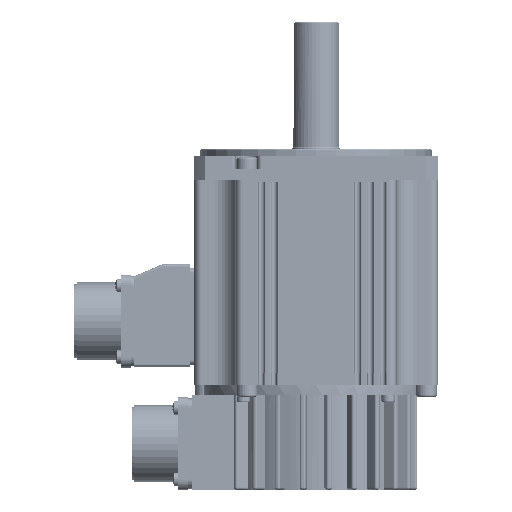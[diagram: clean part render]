
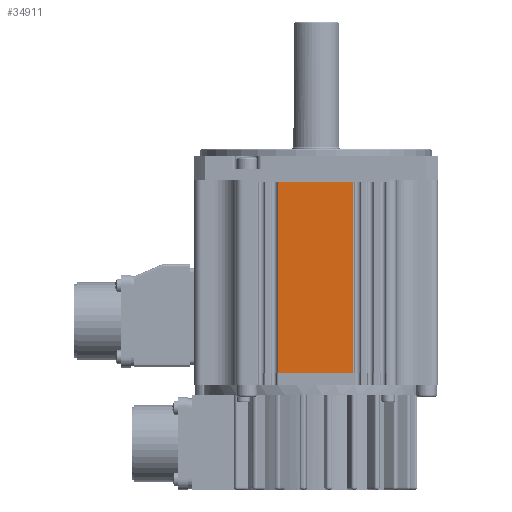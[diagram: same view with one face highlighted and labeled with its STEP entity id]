
A CAD part, left-side view. The second image highlights one B-rep face of the part: STEP entity #34911.
In plain terms, the highlighted planar face has unit normal (-1, 0, 0).
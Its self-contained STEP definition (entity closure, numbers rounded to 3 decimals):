
#31015=DIRECTION('',(0.,1.,0.));
#31016=VECTOR('',#31015,30.8);
#31017=CARTESIAN_POINT('',(-50.,-15.4,78.5));
#31018=LINE('',#31017,#31016);
#31709=DIRECTION('',(0.,0.,1.));
#31710=VECTOR('',#31709,78.5);
#31711=CARTESIAN_POINT('',(-50.,-15.4,0.));
#31712=LINE('',#31711,#31710);
#31713=DIRECTION('',(0.,1.,0.));
#31714=VECTOR('',#31713,30.8);
#31715=CARTESIAN_POINT('',(-50.,-15.4,0.));
#31716=LINE('',#31715,#31714);
#31721=DIRECTION('',(0.,0.,-1.));
#31722=VECTOR('',#31721,78.5);
#31723=CARTESIAN_POINT('',(-50.,15.4,78.5));
#31724=LINE('',#31723,#31722);
#33265=CARTESIAN_POINT('',(-50.,15.4,0.));
#33266=VERTEX_POINT('',#33265);
#33267=CARTESIAN_POINT('',(-50.,-15.4,0.));
#33268=VERTEX_POINT('',#33267);
#33533=CARTESIAN_POINT('',(-50.,-15.4,78.5));
#33534=VERTEX_POINT('',#33533);
#33535=CARTESIAN_POINT('',(-50.,15.4,78.5));
#33536=VERTEX_POINT('',#33535);
#34899=CARTESIAN_POINT('',(-50.,33.,0.));
#34900=DIRECTION('',(-1.,0.,0.));
#34901=DIRECTION('',(0.,-1.,0.));
#34902=AXIS2_PLACEMENT_3D('',#34899,#34900,#34901);
#34903=PLANE('',#34902);
#34905=ORIENTED_EDGE('',*,*,#34904,.F.);
#34906=ORIENTED_EDGE('',*,*,#34238,.F.);
#34907=ORIENTED_EDGE('',*,*,#34894,.F.);
#34908=ORIENTED_EDGE('',*,*,#34046,.T.);
#34909=EDGE_LOOP('',(#34905,#34906,#34907,#34908));
#34910=FACE_OUTER_BOUND('',#34909,.F.);
#34911=ADVANCED_FACE('',(#34910),#34903,.T.);
#34046=EDGE_CURVE('',#33268,#33266,#31716,.T.);
#34238=EDGE_CURVE('',#33534,#33536,#31018,.T.);
#34894=EDGE_CURVE('',#33268,#33534,#31712,.T.);
#34904=EDGE_CURVE('',#33536,#33266,#31724,.T.);
